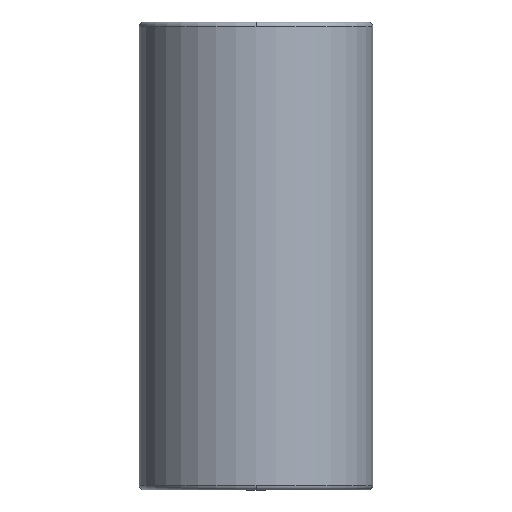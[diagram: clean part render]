
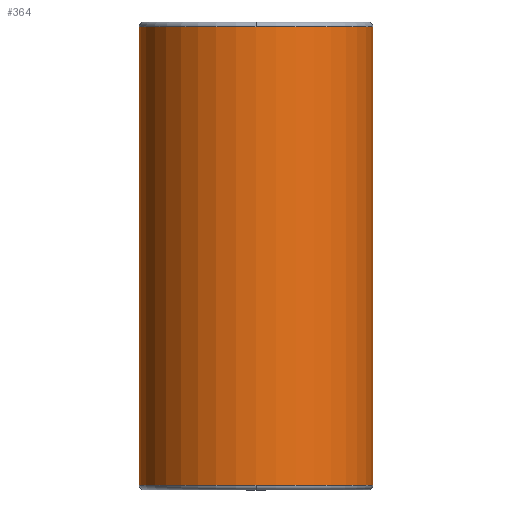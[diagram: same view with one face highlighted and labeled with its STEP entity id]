
A CAD part, front view. The second image highlights one B-rep face of the part: STEP entity #364.
In plain terms, the highlighted cylindrical face has radius 47.492 mm (diameter 94.984 mm), a partial arc.
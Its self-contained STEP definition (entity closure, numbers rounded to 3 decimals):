
#269=CARTESIAN_POINT('',(0.0,-47.492,188.));
#270=VERTEX_POINT('',#269);
#296=CARTESIAN_POINT('',(-47.492,0.,188.));
#297=VERTEX_POINT('',#296);
#305=CARTESIAN_POINT('',(0.0,0.,188.));
#306=DIRECTION('',(0.0,0.0,1.0));
#307=DIRECTION('',(1.0,0.0,0.0));
#308=AXIS2_PLACEMENT_3D('',#305,#306,#307);
#309=CIRCLE('',#308,47.492);
#310=EDGE_CURVE('',#297,#270,#309,.T.);
#315=CARTESIAN_POINT('',(0.0,0.,95.));
#316=DIRECTION('',(0.0,0.,1.0));
#317=DIRECTION('',(1.0,0.0,0.0));
#318=AXIS2_PLACEMENT_3D('',#315,#316,#317);
#319=CYLINDRICAL_SURFACE('',#318,47.492);
#320=CARTESIAN_POINT('',(47.492,0.,188.));
#321=VERTEX_POINT('',#320);
#322=CARTESIAN_POINT('',(47.492,0.,2.));
#323=VERTEX_POINT('',#322);
#324=CARTESIAN_POINT('',(47.492,0.,188.));
#325=DIRECTION('',(0.0,0.0,-1.0));
#326=VECTOR('',#325,186.);
#327=LINE('',#324,#326);
#328=EDGE_CURVE('',#321,#323,#327,.T.);
#329=ORIENTED_EDGE('',*,*,#328,.F.);
#330=CARTESIAN_POINT('',(0.0,0.,188.));
#331=DIRECTION('',(0.0,0.0,1.0));
#332=DIRECTION('',(1.0,0.0,0.0));
#333=AXIS2_PLACEMENT_3D('',#330,#331,#332);
#334=CIRCLE('',#333,47.492);
#335=EDGE_CURVE('',#270,#321,#334,.T.);
#336=ORIENTED_EDGE('',*,*,#335,.F.);
#337=ORIENTED_EDGE('',*,*,#310,.F.);
#338=CARTESIAN_POINT('',(-47.492,0.,2.0));
#339=VERTEX_POINT('',#338);
#340=CARTESIAN_POINT('',(-47.492,0.,188.));
#341=DIRECTION('',(0.0,0.0,-1.0));
#342=VECTOR('',#341,186.);
#343=LINE('',#340,#342);
#344=EDGE_CURVE('',#297,#339,#343,.T.);
#345=ORIENTED_EDGE('',*,*,#344,.T.);
#346=CARTESIAN_POINT('',(0.0,-47.492,2.));
#347=VERTEX_POINT('',#346);
#348=CARTESIAN_POINT('',(0.0,0.,2.0));
#349=DIRECTION('',(0.0,0.0,1.0));
#350=DIRECTION('',(1.0,0.0,0.0));
#351=AXIS2_PLACEMENT_3D('',#348,#349,#350);
#352=CIRCLE('',#351,47.492);
#353=EDGE_CURVE('',#339,#347,#352,.T.);
#354=ORIENTED_EDGE('',*,*,#353,.T.);
#355=CARTESIAN_POINT('',(0.0,0.,2.0));
#356=DIRECTION('',(0.0,0.0,1.0));
#357=DIRECTION('',(1.0,0.0,0.0));
#358=AXIS2_PLACEMENT_3D('',#355,#356,#357);
#359=CIRCLE('',#358,47.492);
#360=EDGE_CURVE('',#347,#323,#359,.T.);
#361=ORIENTED_EDGE('',*,*,#360,.T.);
#362=EDGE_LOOP('',(#329,#336,#337,#345,#354,#361));
#363=FACE_OUTER_BOUND('',#362,.T.);
#364=ADVANCED_FACE('',(#363),#319,.T.);
